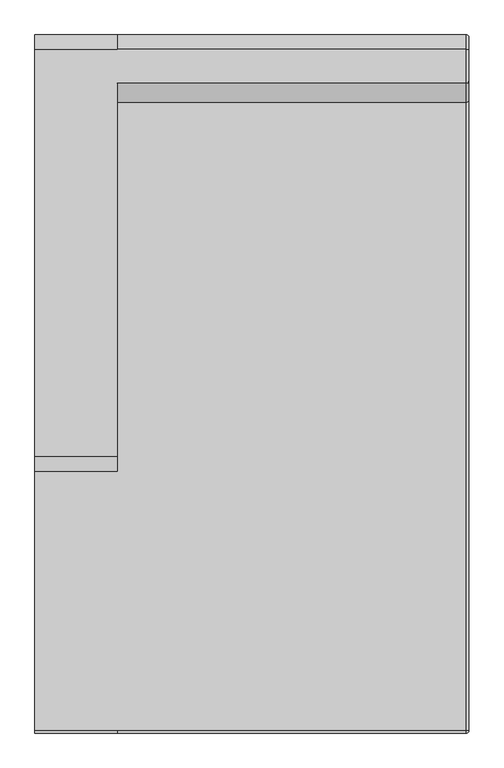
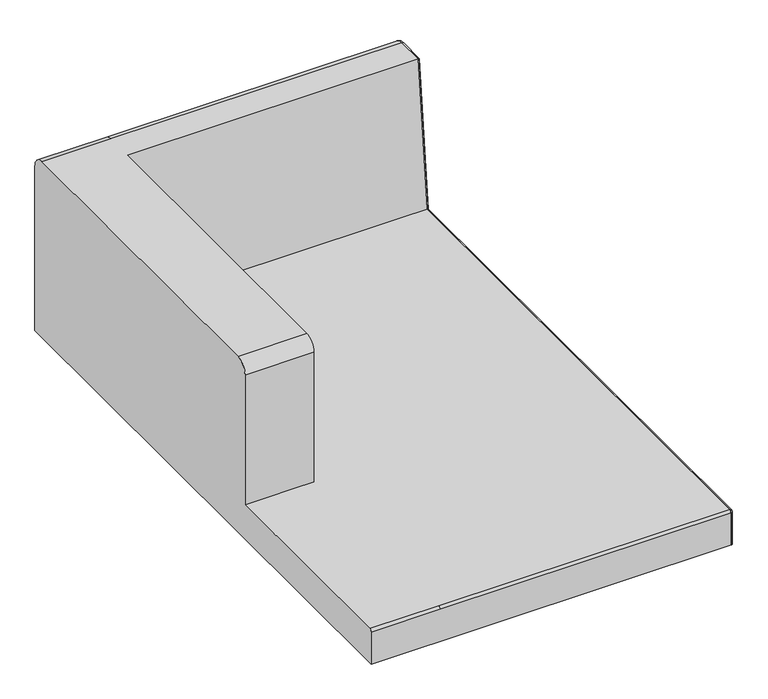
"""IFC4 building model written with IfcOpenShell, lengths in millimetres: furniture geometry, Sofa_Bensen_Neo_NEO15LIT : Sofa_Bensen_Neo_NEO15LIT."""

from ifc_helpers import new_model, si_unit, point, frame, origin, place, context, project, spatial, circle_curve, ellipse_curve, trimmed, source, transform, mapped, element, save
from ifc_brep_helpers import plane_surface, cylinder_surface, revolved_surface, advanced_brep


def furniture_f0cc6534(model_context):
    return source(origin(), model_context, "Body", "AdvancedBrep", [
        advanced_brep(
        [(450.0, -984.9987249, 170.0), (450.0, 444.998725, 170.0), (450.0, 444.998725, 599.5427565), (450.0, 419.9987232, 624.5427565), (450.0, 354.5007452, 624.5427565), (450.0, 315.5972172, 254.4004127), (450.0, -983.9987249, 254.4004127), (450.0, -984.9987249, 253.4004127), (445.0, -989.9987249, 170.0), (445.0, -989.9987249, 253.4004127), (445.0, -983.9987249, 259.4004127), (445.0, 311.095197, 259.4004127), (445.0, 349.998725, 629.5427565), (445.0, 419.998725, 629.5427565), (445.0, 449.998725, 599.5427565), (445.0, 449.998725, 170.0)],
        [
            (0, 1),
            (1, 2),
            (2, 3, circle_curve(frame((450.0, 419.998725, 599.5427565), z_axis=(1.0, 0.0, 0.0), x_axis=(0.0, 1.0, 0.0)), 25.0)),
            (3, 4),
            (4, 5),
            (5, 6),
            (6, 7, circle_curve(frame((450.0, -983.9987249, 253.4004127), z_axis=(1.0, 0.0, 0.0), x_axis=(0.0, 0.0, 1.0)), 1.0)),
            (7, 0),
            (8, 9),
            (9, 10, circle_curve(frame((445.0, -983.9987249, 253.4004127), z_axis=(-1.0, 0.0, 0.0), x_axis=(0.0, 0.0, 1.0)), 6.0)),
            (10, 11),
            (11, 12),
            (12, 13),
            (13, 14, circle_curve(frame((445.0, 419.998725, 599.5427565), z_axis=(-1.0, 0.0, 0.0), x_axis=(0.0, 1.0, 0.0)), 30.0)),
            (14, 15),
            (15, 8),
            (0, 8, circle_curve(frame((445.0, -984.9987249, 170.0), z_axis=(0.0, 0.0, -1.0), x_axis=(1.0, 0.0, 0.0)), 5.0)),
            (15, 1, circle_curve(frame((445.0, 444.998725, 170.0), z_axis=(0.0, 0.0, -1.0), x_axis=(1.0, 0.0, 0.0)), 5.0)),
            (4, 12, ellipse_curve(frame((445.0, 354.5007452, 624.5427565), z_axis=(0.0, -0.7431448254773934, -0.6691306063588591), x_axis=(0.0, -0.669130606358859, 0.7431448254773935)), 6.7281636, 5.0)),
            (11, 5, ellipse_curve(frame((445.0, 315.5972172, 254.4004127), z_axis=(0.0, 0.7431448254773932, 0.6691306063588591), x_axis=(0.0, -0.669130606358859, 0.7431448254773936)), 6.7281636, 5.0)),
            (10, 6, circle_curve(frame((445.0, -983.9987249, 254.4004127), z_axis=(0.0, 1.0, 0.0), x_axis=(1.0, 0.0, 0.0)), 5.0)),
            (7, 9, circle_curve(frame((445.0, -984.9987249, 253.4004127), z_axis=(0.0, 0.0, -1.0), x_axis=(1.0, 0.0, 0.0)), 5.0)),
            (14, 2, circle_curve(frame((445.0, 444.998725, 599.5427565), z_axis=(0.0, 0.0, -1.0), x_axis=(1.0, 0.0, 0.0)), 5.0)),
            (13, 3, circle_curve(frame((445.0, 419.998725, 624.5427565), z_axis=(0.0, 1.0, 0.0), x_axis=(1.0, 0.0, 0.0)), 5.0)),
        ],
        [
            plane_surface(frame((450.0, 354.5007452, 624.5427565), z_axis=(1.0, 0.0, 0.0), x_axis=(0.0, -1.0, 0.0))),
            plane_surface(frame((445.0, 354.5007452, 624.5427565), z_axis=(-1.0, 0.0, 0.0), x_axis=(0.0, 1.0, 0.0))),
            plane_surface(frame((450.0, -984.9987249, 170.0), z_axis=(0.0, 0.0, -1.0), x_axis=(-1.0, 0.0, 0.0))),
            cylinder_surface(frame((445.0, 354.9713345, 629.0201142), z_axis=(0.0, 0.10452846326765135, 0.9945218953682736), x_axis=(1.0, 0.0, 0.0)), 5.0),
            cylinder_surface(frame((445.0, 311.095197, 254.4004127), z_axis=(0.0, 1.0, 0.0), x_axis=(1.0, 0.0, 0.0)), 5.0),
            cylinder_surface(frame((445.0, -984.9987249, 253.4004127), z_axis=(0.0, 0.0, 1.0), x_axis=(1.0, 0.0, 0.0)), 5.0),
            cylinder_surface(frame((445.0, 444.998725, 170.0), z_axis=(0.0, 0.0, -1.0), x_axis=(1.0, 0.0, 0.0)), 5.0),
            revolved_surface(trimmed(ellipse_curve(frame((445.0, 444.998725, 599.5427565), z_axis=(0.0, 0.0, -1.0), x_axis=(1.0, 0.0, 0.0)), 5.0, 5.0), [point((445.0, 449.998725, 599.5427565))], [point((450.0, 444.998725, 599.5427565))], True, "CARTESIAN"), (450.0000001, 419.998725, 599.5427565), (1.0, 0.0, 0.0)),
            cylinder_surface(frame((445.0, 419.998725, 624.5427565), z_axis=(0.0, 1.0, 0.0), x_axis=(1.0, 0.0, 0.0)), 5.0),
            revolved_surface(trimmed(ellipse_curve(frame((445.0, -983.9987249, 254.4004127), z_axis=(0.0, 1.0, 0.0), x_axis=(1.0, 0.0, 0.0)), 5.0, 5.0), [point((445.0, -983.9987249, 259.4004127))], [point((450.0, -983.9987249, 254.4004127))], True, "CARTESIAN"), (450.0000001, -983.9987249, 253.4004127), (1.0, 0.0, 0.0)),
        ],
        [
            (0, [[1, 2, 3, 4, 5, 6, 7, 8]]),
            (1, [[9, 10, 11, 12, 13, 14, 15, 16]]),
            (2, [[-1, 17, -16, 18]]),
            (3, [[19, -12, 20, -5]]),
            (4, [[-20, -11, 21, -6]]),
            (5, [[22, -9, -17, -8]]),
            (6, [[-18, -15, 23, -2]]),
            (7, [[-14, 24, -3, -23]]),
            (8, [[-19, -4, -24, -13]]),
            (9, [[-21, -10, -22, -7]]),
        ],
    ),
        advanced_brep(
        [(-445.0, -989.9987249, 253.4004127), (-445.0, -983.9987249, 259.4004127), (-445.0, -449.9987249, 259.4004127), (-445.0, -449.9987249, 599.5427565), (-445.0, -419.9987249, 629.5427565), (-445.0, 419.998725, 629.5427565), (-445.0, 449.998725, 599.5427565), (-445.0, 449.998725, 170.0), (-445.0, -989.9987249, 170.0), (445.0, -989.9987249, 170.0), (445.0, -989.9987249, 253.4004127), (-275.0, -989.9987249, 253.4004127), (445.0, 449.998725, 170.0), (-275.0, -983.9987249, 259.4004127), (445.0, -983.9987249, 259.4004127), (445.0, 311.095197, 259.4004127), (-275.0, 311.095197, 259.4004127), (-275.0, -449.9987249, 259.4004127), (445.0, 449.998725, 599.5427565), (445.0, 419.998725, 629.5427565), (445.0, 349.998725, 629.5427565), (-275.0, -419.9987249, 629.5427565), (-275.0, -449.9987249, 599.5427565), (-275.0, 349.998725, 629.5427565), (-275.0, 449.998725, 599.5427565), (-275.0, 419.998725, 629.5427565)],
        [
            (0, 1, circle_curve(frame((-445.0, -983.9987249, 253.4004127), z_axis=(-1.0, 0.0, 0.0), x_axis=(0.0, 0.0, 1.0)), 6.0)),
            (1, 2),
            (2, 3),
            (3, 4, circle_curve(frame((-445.0, -419.9987249, 599.5427565), z_axis=(-1.0, 0.0, 0.0), x_axis=(0.0, -1.0, 0.0)), 30.0)),
            (4, 5),
            (5, 6, circle_curve(frame((-445.0, 419.998725, 599.5427565), z_axis=(-1.0, 0.0, 0.0), x_axis=(0.0, -1.0, 0.0)), 30.0)),
            (6, 7),
            (7, 8),
            (8, 0),
            (8, 9),
            (9, 10),
            (10, 11),
            (11, 0),
            (7, 12),
            (12, 9),
            (1, 13),
            (13, 14),
            (14, 15),
            (15, 16),
            (16, 17),
            (17, 2),
            (11, 13, circle_curve(frame((-275.0, -983.9987249, 253.4004127), z_axis=(-1.0, 0.0, 0.0), x_axis=(0.0, 0.0, 1.0)), 6.0)),
            (14, 10, circle_curve(frame((445.0, -983.9987249, 253.4004127), z_axis=(1.0, 0.0, 0.0), x_axis=(0.0, 0.0, 1.0)), 6.0)),
            (12, 18),
            (18, 19, circle_curve(frame((445.0, 419.998725, 599.5427565), z_axis=(1.0, 0.0, 0.0), x_axis=(0.0, -1.0, 0.0)), 30.0)),
            (19, 20),
            (20, 15),
            (21, 22, circle_curve(frame((-275.0, -419.9987249, 599.5427565), z_axis=(1.0, 0.0, 0.0), x_axis=(0.0, -1.0, 0.0)), 30.0)),
            (22, 17),
            (16, 23),
            (23, 21),
            (21, 4),
            (3, 22),
            (6, 24),
            (24, 18),
            (5, 25),
            (25, 24, circle_curve(frame((-275.0, 419.998725, 599.5427565), z_axis=(-1.0, 0.0, 0.0), x_axis=(0.0, -1.0, 0.0)), 30.0)),
            (23, 20),
            (19, 25),
        ],
        [
            plane_surface(frame((-445.0, -989.9987249, 253.4004127), z_axis=(-1.0, 0.0, 0.0), x_axis=(0.0, 0.0, 1.0))),
            plane_surface(frame((-275.0, -989.9987249, 253.4004127), z_axis=(0.0, -1.0, 0.0), x_axis=(-1.0, 0.0, 0.0))),
            plane_surface(frame((-275.0, -989.9987249, 170.0), z_axis=(0.0, 0.0, -1.0), x_axis=(-1.0, 0.0, 0.0))),
            plane_surface(frame((-275.0, -449.9987249, 259.4004127), z_axis=(0.0, 0.0, 1.0), x_axis=(-1.0, 0.0, 0.0))),
            cylinder_surface(frame((-445.0, -983.9987249, 253.4004127), z_axis=(1.0, 0.0, 0.0), x_axis=(0.0, 0.0, 1.0)), 6.0),
            plane_surface(frame((445.0, -983.9987249, 259.4004127), z_axis=(1.0, 0.0, 0.0), x_axis=(0.0, -1.0, 0.0))),
            cylinder_surface(frame((-275.0, -983.9987249, 253.4004127), z_axis=(1.0, 0.0, 0.0), x_axis=(0.0, 0.0, 1.0)), 6.0),
            plane_surface(frame((-275.0, -449.9987249, 599.5427565), z_axis=(1.0, 0.0, 0.0), x_axis=(0.0, 0.0, -1.0))),
            cylinder_surface(frame((-445.0, -419.9987249, 599.5427565), z_axis=(1.0, 0.0, 0.0), x_axis=(0.0, -1.0, 0.0)), 30.0),
            plane_surface(frame((-275.0, -449.9987249, 599.5427565), z_axis=(0.0, -1.0, 0.0), x_axis=(-1.0, 0.0, 0.0))),
            plane_surface(frame((-275.0, 449.998725, 170.0), z_axis=(0.0, 1.0, 0.0), x_axis=(-1.0, 0.0, 0.0))),
            cylinder_surface(frame((-445.0, 419.998725, 599.5427565), z_axis=(1.0, 0.0, 0.0), x_axis=(0.0, -1.0, 0.0)), 30.0),
            plane_surface(frame((-275.0, 419.998725, 629.5427565), z_axis=(0.0, 0.0, 1.0), x_axis=(-1.0, 0.0, 0.0))),
            plane_surface(frame((-275.0, 301.698701, 169.9987249), z_axis=(0.0, -0.9945218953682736, 0.10452846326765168), x_axis=(1.0, 0.0, 0.0))),
            cylinder_surface(frame((445.0, 419.998725, 599.5427565), z_axis=(-1.0, 0.0, 0.0), x_axis=(0.0, -1.0, 0.0)), 30.0),
        ],
        [
            (0, [[1, 2, 3, 4, 5, 6, 7, 8, 9]]),
            (1, [[-9, 10, 11, 12, 13]]),
            (2, [[-10, -8, 14, 15]]),
            (3, [[-2, 16, 17, 18, 19, 20, 21]]),
            (4, [[-1, -13, 22, -16]]),
            (5, [[23, -11, -15, 24, 25, 26, 27, -18]]),
            (6, [[-23, -17, -22, -12]]),
            (7, [[28, 29, -20, 30, 31]]),
            (8, [[-28, 32, -4, 33]]),
            (9, [[-33, -3, -21, -29]]),
            (10, [[-14, -7, 34, 35, -24]]),
            (11, [[-6, 36, 37, -34]]),
            (12, [[-5, -32, -31, 38, -26, 39, -36]]),
            (13, [[-38, -30, -19, -27]]),
            (14, [[-25, -35, -37, -39]]),
        ],
    ),
    ])


if __name__ == "__main__":
    model = new_model("IFC4")
    model_context = context("Model", 3, world=origin())
    ifc_project = project(units=[si_unit("LENGTHUNIT", "METRE", prefix="MILLI")], contexts=[model_context])
    site = spatial("IfcSite", under=ifc_project)
    building = spatial("IfcBuilding", under=site)
    placement = place(None, origin())
    furniture_shape = furniture_f0cc6534(model_context)
    element("IfcFurniture", 1, ObjectType="Sofa_Bensen_Neo_NEO15LIT : Sofa_Bensen_Neo_NEO15LIT", at=placement, inside=building, context=model_context, shape_type="MappedRepresentation", body=[
        mapped(furniture_shape, transform((0.0, 0.0, 0.0), x_axis=(1.0, 0.0, 0.0), y_axis=(0.0, 1.0, 0.0), z_axis=(0.0, 0.0, 1.0))),
    ])
    save(model, "model.ifc")
